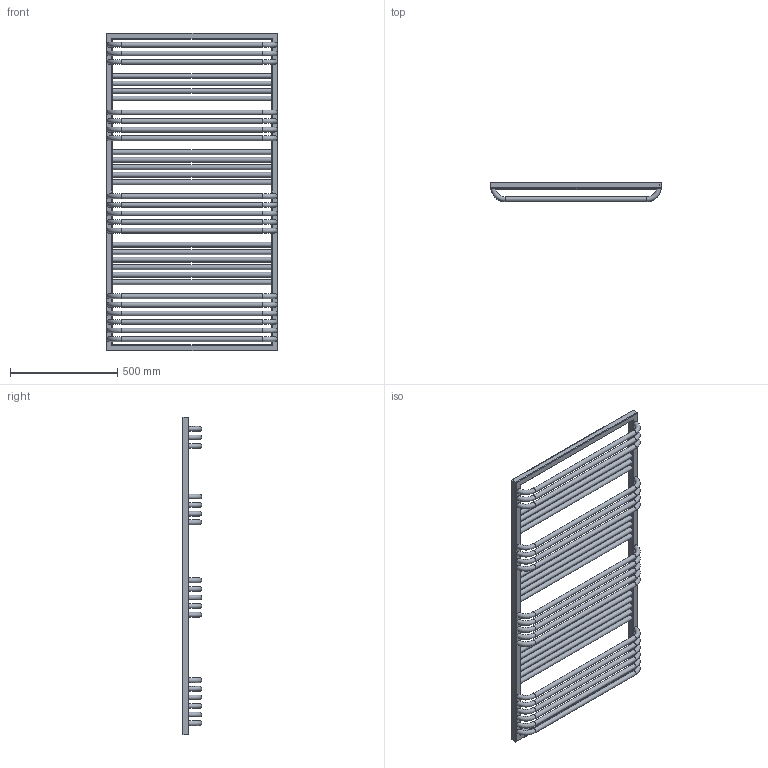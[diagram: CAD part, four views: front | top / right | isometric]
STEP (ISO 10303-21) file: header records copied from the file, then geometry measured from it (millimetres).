
FILE_DESCRIPTION((''),'2;1');
FILE_NAME('Z:\R\G\P\RGPH18 - Grzejnik POC\Work\Inventor\POC 1-6-8 v2.0\Marketing\AutoCad 3D\POC-1480-800-1-6-8.stp','2012-07-12T14:39:10',('KurKa'),(''),'Autodesk Inventor 2012','Autodesk Inventor 2012','');
FILE_SCHEMA(('AUTOMOTIVE_DESIGN { 1 0 10303 214 1 1 1 1 }'));
Length unit declared in the file: millimetre
Products named in the file (1): POC-1480-800-1-6-8
Bounding box: 800 x 90 x 1480 mm (x, y, z)
Volume: 13796680.1 mm3; surface area: 2275530.4 mm2
Topology: 1 solids, 1 shells, 104 faces, 278 edges, 179 vertices
Faces by surface type: cylinder 52, torus 39, plane 13
Full cylindrical faces by diameter (mm): 18.631 x3, 22 x33
Entity records: 4972 total; most frequent: CARTESIAN_POINT 2755, DIRECTION 432, ORIENTED_EDGE 334, EDGE_LOOP 250, AXIS2_PLACEMENT_3D 196, EDGE_CURVE 167, FACE_BOUND 146, VERTEX_POINT 143
